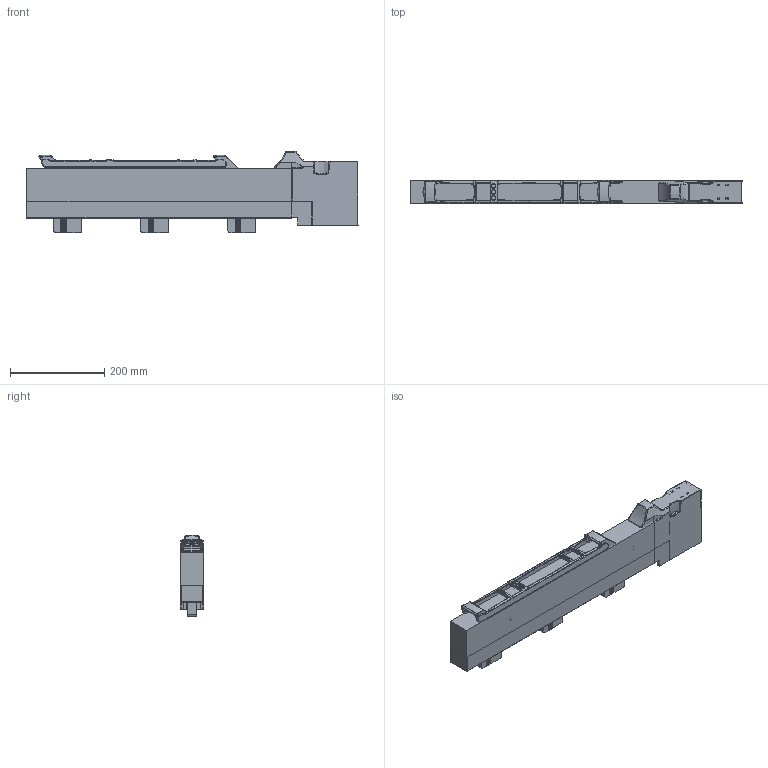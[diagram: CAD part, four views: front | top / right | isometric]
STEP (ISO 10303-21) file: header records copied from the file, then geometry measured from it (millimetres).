
FILE_DESCRIPTION(/* description */ (''),/* implementation_level */ '2;1');
FILE_NAME(/* name */ 'ARS_63_811840_061.stp',/* time_stamp */ '2019-07-17T13:35:31+02:00',/* author */ (''),/* organization */ (''),/* preprocessor_version */ 'ST-DEVELOPER v16',/* originating_system */ 'SIEMENS PLM Software NX 10.0',/* authorisation */ '');
FILE_SCHEMA (('AUTOMOTIVE_DESIGN { 1 0 10303 214 3 1 1 1 }'));
Products named in the file (1): 710_294C10DDs9w0
Bounding box: 705.1 x 49.5 x 172.35 mm (x, y, z)
Volume: 2933475.5 mm3; surface area: 515622.2 mm2
Topology: 1 solids, 1010 shells, 1015 faces, 6697 edges, 6651 vertices
Faces by surface type: plane 376, cylinder 348, bspline 213, torus 47, cone 15, sphere 14, revolution 2
Full cylindrical faces by diameter (mm): 3.2 x2, 3.3 x7, 4.5 x1, 5.1 x6, 6 x1, 8.5 x1, 10 x1
Entity records: 90169 total; most frequent: CARTESIAN_POINT 33684, DIRECTION 8543, ORIENTED_EDGE 6653, EDGE_CURVE 6641, VERTEX_POINT 6637, LINE 3335, VECTOR 3335, AXIS2_PLACEMENT_3D 2603
